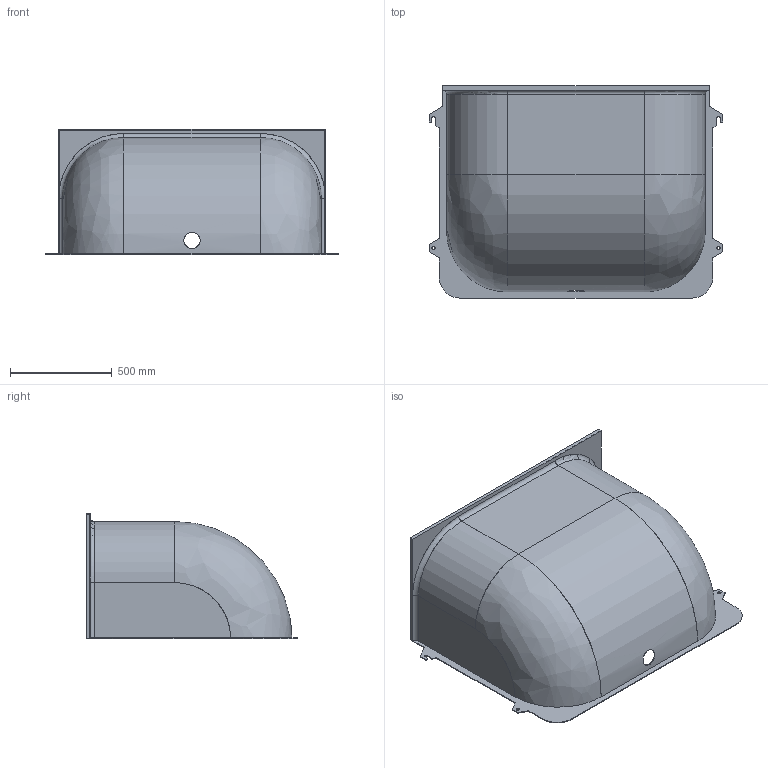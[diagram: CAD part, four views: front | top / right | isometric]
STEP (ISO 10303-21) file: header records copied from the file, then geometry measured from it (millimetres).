
FILE_DESCRIPTION(/* description */ (''),/* implementation_level */ '2;1');
FILE_NAME(/* name */ 'Q:\sge-bs-neu-2008\Marketing\CAD Zeichnungen\3D-CAD-Daten\3D Daten Website\- MEA Multinorm Kunststofflichtschacht\Step\Multinorm_125x100x60.stp',/* time_stamp */ '2019-02-14T10:56:18+01:00',/* author */ ('avgrahammj'),/* organization */ (''),/* preprocessor_version */ 'ST-DEVELOPER v16.1',/* originating_system */ 'Autodesk Inventor 2016',/* authorisation */ '');
FILE_SCHEMA (('AUTOMOTIVE_DESIGN { 1 0 10303 214 3 1 1 }'));
Length unit declared in the file: millimetre
Products named in the file (1): Multinorm_125x100x60
Bounding box: 1442 x 1040 x 615 mm (x, y, z)
Volume: 10358891.9 mm3; surface area: 5207031.9 mm2
Topology: 1 solids, 1 shells, 71 faces, 195 edges, 126 vertices
Faces by surface type: plane 40, cylinder 23, torus 4, bspline 4
Full cylindrical faces by diameter (mm): 16 x2, 80 x1
Entity records: 2488 total; most frequent: CARTESIAN_POINT 642, ORIENTED_EDGE 384, DIRECTION 374, EDGE_CURVE 192, LINE 130, VECTOR 130, VERTEX_POINT 126, AXIS2_PLACEMENT_3D 122
